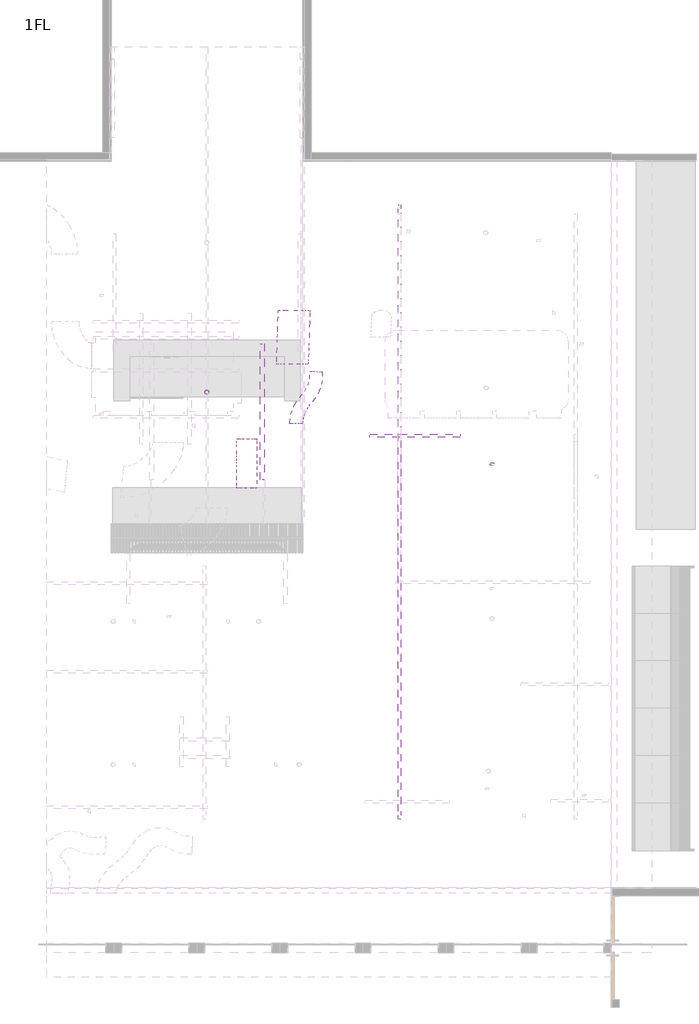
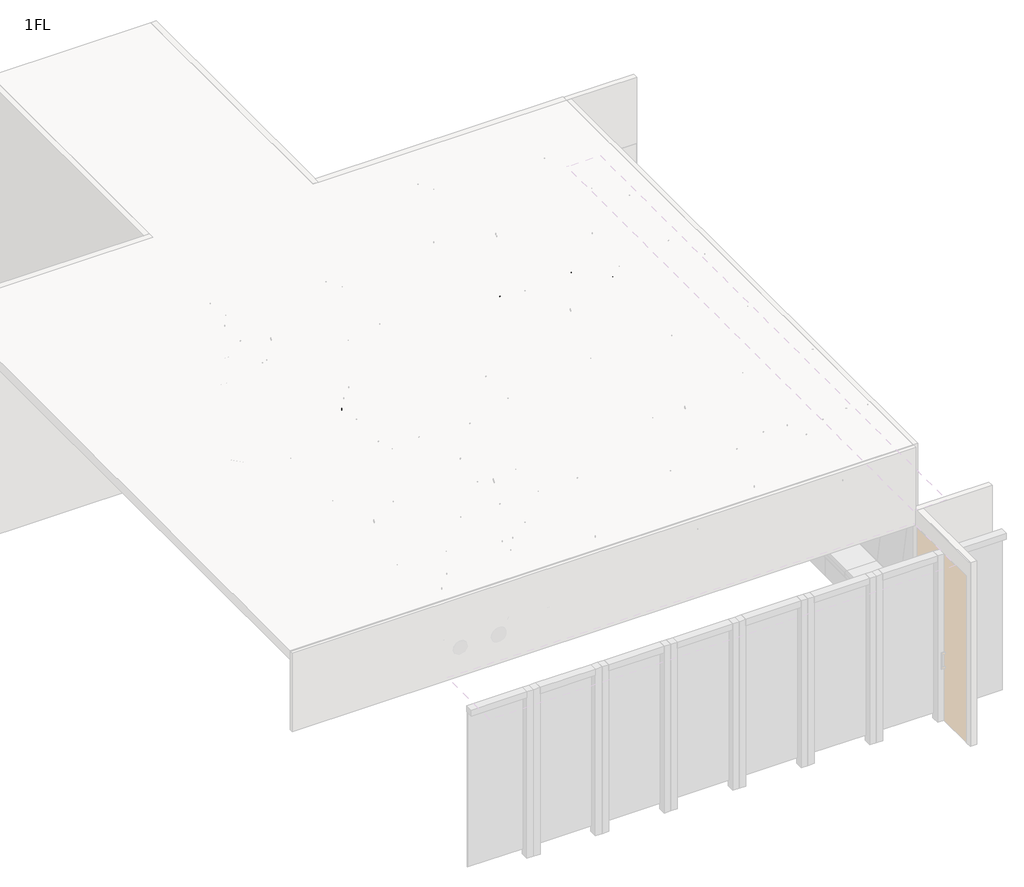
# One storey, part 12 of 13: 3 duct segments, 2 light fixtures, 2 proxies, 1 fire suppression terminal.
"""IFC4 building model written with IfcOpenShell, lengths in millimetres."""

from ifc_helpers import new_model, si_unit, frame, origin, place, context, project, spatial, circle_curve, ellipse_curve, transform, mapped, element, save
from ifc_brep_helpers import plane_surface, cylinder_surface, advanced_brep
from components import mechanical_equipment_5372400f, duct_hanger_0f291719, sprinkler_01_sprinkler_01_96afb536, pendant_light_02_pendant_light_02_69d9757e, spot_light_spot_light_859ee439

model = new_model("IFC4")

# Units and contexts
model_context = context("Model", 3, world=origin())
ifc_project = project(units=[si_unit("LENGTHUNIT", "METRE", prefix="MILLI")], contexts=[model_context])

# Site, building, storey
site = spatial("IfcSite", under=ifc_project)
building = spatial("IfcBuilding", under=site)
storey = spatial("IfcBuildingStorey", under=building, Name="1FL", Elevation=500.0)

# Proxies
placement = place(None, origin())
mechanical_equipment_shape = mechanical_equipment_5372400f(model_context)
element("IfcBuildingElementProxy", 1, Name="Beared-Hanger : BearedHanger", ObjectType="Beared-Hanger : BearedHanger", at=placement, inside=storey, context=model_context, shape_type="MappedRepresentation", body=[
    mapped(mechanical_equipment_shape, transform((18644.7972604, 1592.411155, 4470.0), x_axis=(1.0, 0.0, 0.0), y_axis=(0.0, 1.0, 0.0), z_axis=(0.0, 0.0, 1.0))),
])
duct_hanger_shape = duct_hanger_0f291719(model_context)
element("IfcBuildingElementProxy", 2, Name="Duct-hanger : Φ44", ObjectType="Duct-hanger : Φ44", at=placement, inside=storey, context=model_context, shape_type="MappedRepresentation", body=[
    mapped(duct_hanger_shape, transform((19618.6610033, 1236.8355935, 4470.0), x_axis=(0.0, 1.0, 0.0), y_axis=(-1.0, 0.0, 0.0), z_axis=(0.0, 0.0, 1.0))),
])

# Duct segments
element("IfcDuctSegment", 3, ObjectType="フレキシブル - 円形", at=placement, inside=storey, context=model_context, shape_type="AdvancedBrep", body=[
    advanced_brep(
    [(16898.521565, 2493.89169, 3920.0), (17098.521565, 2493.89169, 3720.0), (17298.521565, 2493.89169, 3920.0), (17098.521565, 2493.89169, 4120.0), (16898.521565, 2525.0228497, 3920.0), (17098.521565, 2504.6395437, 3720.0), (17298.521565, 2521.8183379, 3920.0), (17098.521565, 2542.2016439, 4120.0), (16915.5675628, 3175.9810163, 3720.1931273), (17115.5675628, 3175.9810163, 3920.1931273), (17315.5675628, 3175.9810163, 3720.1931273), (17115.5675628, 3175.9810163, 3520.1931273), (16900.3421128, 2637.6376364, 3898.6602124), (17099.7344759, 2579.6673498, 3705.7827068), (17300.2465847, 2628.523979, 3899.779958), (17100.8542215, 2686.4942656, 4092.6574637), (16904.6270631, 2774.5079138, 3848.4336123), (17103.2873877, 2693.1547837, 3664.1367916), (17304.4164493, 2761.7181797, 3850.9023494), (17105.7561247, 2843.0713098, 4035.19917), (16909.6726785, 2908.1545266, 3789.290778), (17108.333003, 2826.8013965, 3604.9939573), (17309.4620646, 2895.3647924, 3791.759515), (17110.8017401, 2976.7179225, 3976.0563357), (16913.8425431, 3041.3487272, 3740.4131693), (17113.2349062, 2983.3784406, 3547.5356636), (17313.7470149, 3032.2350698, 3741.5329149), (17114.3546518, 3090.2053564, 3934.4104205), (16915.5675628, 3148.0543683, 3720.1931273), (17115.5675628, 3127.6710623, 3520.1931273), (17315.5675628, 3144.8498566, 3720.1931273), (17115.5675628, 3165.2331626, 3920.1931273)],
    [
        (0, 1, circle_curve(frame((17098.521565, 2493.89169, 3920.0), z_axis=(0.0, -1.0, 0.0), x_axis=(-1.0, 0.0, 0.0)), 200.0)),
        (1, 2, circle_curve(frame((17098.521565, 2493.89169, 3920.0), z_axis=(0.0, -1.0, 0.0), x_axis=(-1.0, 0.0, 0.0)), 200.0)),
        (2, 3, circle_curve(frame((17098.521565, 2493.89169, 3920.0), z_axis=(0.0, -1.0, 0.0), x_axis=(-1.0, 0.0, 0.0)), 200.0)),
        (3, 0, circle_curve(frame((17098.521565, 2493.89169, 3920.0), z_axis=(0.0, -1.0, 0.0), x_axis=(-1.0, 0.0, 0.0)), 200.0)),
        (0, 4),
        (4, 5, ellipse_curve(frame((17098.521565, 2523.4205938, 3920.0), z_axis=(-0.0079759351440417, -0.9955881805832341, 0.09349095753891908), x_axis=(0.08462857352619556, -0.0938305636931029, -0.9919847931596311)), 200.886274, 200.0)),
        (5, 1),
        (5, 6, ellipse_curve(frame((17098.521565, 2523.4205938, 3920.0), z_axis=(-0.0079759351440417, -0.9955881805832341, 0.09349095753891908), x_axis=(0.08462857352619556, -0.0938305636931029, -0.9919847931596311)), 200.886274, 200.0)),
        (6, 2),
        (6, 7, ellipse_curve(frame((17098.521565, 2523.4205938, 3920.0), z_axis=(-0.0079759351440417, -0.9955881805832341, 0.09349095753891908), x_axis=(0.08462857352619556, -0.0938305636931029, -0.9919847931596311)), 200.886274, 200.0)),
        (7, 3),
        (7, 4, ellipse_curve(frame((17098.521565, 2523.4205938, 3920.0), z_axis=(-0.0079759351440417, -0.9955881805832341, 0.09349095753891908), x_axis=(0.08462857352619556, -0.0938305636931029, -0.9919847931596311)), 200.886274, 200.0)),
        (8, 9, circle_curve(frame((17115.5675628, 3175.9810163, 3720.1931273), z_axis=(0.0, 1.0, 0.0), x_axis=(-1.0, 0.0, 0.0)), 200.0)),
        (9, 10, circle_curve(frame((17115.5675628, 3175.9810163, 3720.1931273), z_axis=(0.0, 1.0, 0.0), x_axis=(-1.0, 0.0, 0.0)), 200.0)),
        (10, 11, circle_curve(frame((17115.5675628, 3175.9810163, 3720.1931273), z_axis=(0.0, 1.0, 0.0), x_axis=(-1.0, 0.0, 0.0)), 200.0)),
        (11, 8, circle_curve(frame((17115.5675628, 3175.9810163, 3720.1931273), z_axis=(0.0, 1.0, 0.0), x_axis=(-1.0, 0.0, 0.0)), 200.0)),
        (4, 12),
        (12, 13, ellipse_curve(frame((17100.2943487, 2633.0808077, 3899.2200852), z_axis=(-0.02270670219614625, -0.9636615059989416, 0.2661595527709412), x_axis=(0.08191469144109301, -0.2671263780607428, -0.9601736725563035)), 200.6820997, 200.0)),
        (13, 5),
        (13, 14, ellipse_curve(frame((17100.2943487, 2633.0808077, 3899.2200852), z_axis=(-0.02270670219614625, -0.9636615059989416, 0.2661595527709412), x_axis=(0.08191469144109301, -0.2671263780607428, -0.9601736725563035)), 200.6820997, 200.0)),
        (14, 6),
        (14, 15, ellipse_curve(frame((17100.2943487, 2633.0808077, 3899.2200852), z_axis=(-0.02270670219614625, -0.9636615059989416, 0.2661595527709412), x_axis=(0.08191469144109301, -0.2671263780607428, -0.9601736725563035)), 200.6820997, 200.0)),
        (15, 7),
        (15, 12, ellipse_curve(frame((17100.2943487, 2633.0808077, 3899.2200852), z_axis=(-0.02270670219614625, -0.9636615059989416, 0.2661595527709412), x_axis=(0.08191469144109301, -0.2671263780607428, -0.9601736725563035)), 200.6820997, 200.0)),
        (12, 16),
        (16, 17, ellipse_curve(frame((17104.5217562, 2768.1130467, 3849.6679808), z_axis=(-0.031957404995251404, -0.9266385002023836, 0.37459286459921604), x_axis=(0.07876760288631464, -0.3759535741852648, -0.9232846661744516)), 200.1059553, 200.0)),
        (17, 13),
        (17, 18, ellipse_curve(frame((17104.5217562, 2768.1130467, 3849.6679808), z_axis=(-0.031957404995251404, -0.9266385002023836, 0.37459286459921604), x_axis=(0.07876760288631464, -0.3759535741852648, -0.9232846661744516)), 200.1059553, 200.0)),
        (18, 14),
        (18, 19, ellipse_curve(frame((17104.5217562, 2768.1130467, 3849.6679808), z_axis=(-0.031957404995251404, -0.9266385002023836, 0.37459286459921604), x_axis=(0.07876760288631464, -0.3759535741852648, -0.9232846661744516)), 200.1059553, 200.0)),
        (19, 15),
        (19, 16, ellipse_curve(frame((17104.5217562, 2768.1130467, 3849.6679808), z_axis=(-0.031957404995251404, -0.9266385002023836, 0.37459286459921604), x_axis=(0.07876760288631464, -0.3759535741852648, -0.9232846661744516)), 200.1059553, 200.0)),
        (16, 20),
        (20, 21, ellipse_curve(frame((17109.5673715, 2901.7596595, 3790.5251465), z_axis=(-0.03195740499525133, -0.9266385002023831, 0.37459286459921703), x_axis=(-0.07876760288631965, 0.3759535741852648, 0.923284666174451)), 200.1059553, 200.0)),
        (21, 17),
        (21, 22, ellipse_curve(frame((17109.5673715, 2901.7596595, 3790.5251465), z_axis=(-0.03195740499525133, -0.9266385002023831, 0.37459286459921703), x_axis=(-0.07876760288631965, 0.3759535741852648, 0.923284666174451)), 200.1059553, 200.0)),
        (22, 18),
        (22, 23, ellipse_curve(frame((17109.5673715, 2901.7596595, 3790.5251465), z_axis=(-0.03195740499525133, -0.9266385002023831, 0.37459286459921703), x_axis=(-0.07876760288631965, 0.3759535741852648, 0.923284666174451)), 200.1059553, 200.0)),
        (23, 19),
        (23, 20, ellipse_curve(frame((17109.5673715, 2901.7596595, 3790.5251465), z_axis=(-0.03195740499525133, -0.9266385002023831, 0.37459286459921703), x_axis=(-0.07876760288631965, 0.3759535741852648, 0.923284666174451)), 200.1059553, 200.0)),
        (20, 24),
        (24, 25, ellipse_curve(frame((17113.794779, 3036.7918985, 3740.9730421), z_axis=(-0.022706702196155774, -0.9636615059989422, 0.26615955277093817), x_axis=(-0.08191469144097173, 0.26712637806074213, 0.960173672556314)), 200.6820997, 200.0)),
        (25, 21),
        (25, 26, ellipse_curve(frame((17113.794779, 3036.7918985, 3740.9730421), z_axis=(-0.022706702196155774, -0.9636615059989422, 0.26615955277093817), x_axis=(-0.08191469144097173, 0.26712637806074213, 0.960173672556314)), 200.6820997, 200.0)),
        (26, 22),
        (26, 27, ellipse_curve(frame((17113.794779, 3036.7918985, 3740.9730421), z_axis=(-0.022706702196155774, -0.9636615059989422, 0.26615955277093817), x_axis=(-0.08191469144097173, 0.26712637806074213, 0.960173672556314)), 200.6820997, 200.0)),
        (27, 23),
        (27, 24, ellipse_curve(frame((17113.794779, 3036.7918985, 3740.9730421), z_axis=(-0.022706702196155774, -0.9636615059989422, 0.26615955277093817), x_axis=(-0.08191469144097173, 0.26712637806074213, 0.960173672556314)), 200.6820997, 200.0)),
        (24, 28),
        (28, 29, ellipse_curve(frame((17115.5675628, 3146.4521124, 3720.1931273), z_axis=(-0.007975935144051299, -0.9955881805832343, 0.09349095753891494), x_axis=(-0.08462857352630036, 0.09383056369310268, 0.9919847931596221)), 200.886274, 200.0)),
        (29, 25),
        (29, 30, ellipse_curve(frame((17115.5675628, 3146.4521124, 3720.1931273), z_axis=(-0.007975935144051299, -0.9955881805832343, 0.09349095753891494), x_axis=(-0.08462857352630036, 0.09383056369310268, 0.9919847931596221)), 200.886274, 200.0)),
        (30, 26),
        (30, 31, ellipse_curve(frame((17115.5675628, 3146.4521124, 3720.1931273), z_axis=(-0.007975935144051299, -0.9955881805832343, 0.09349095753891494), x_axis=(-0.08462857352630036, 0.09383056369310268, 0.9919847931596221)), 200.886274, 200.0)),
        (31, 27),
        (31, 28, ellipse_curve(frame((17115.5675628, 3146.4521124, 3720.1931273), z_axis=(-0.007975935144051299, -0.9955881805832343, 0.09349095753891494), x_axis=(-0.08462857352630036, 0.09383056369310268, 0.9919847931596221)), 200.886274, 200.0)),
        (28, 8),
        (11, 29),
        (10, 30),
        (9, 31),
    ],
    [
        plane_surface(frame((16898.521565, 2493.89169, 3920.0), z_axis=(0.0, -1.0, 0.0), x_axis=(0.0, 0.0, 1.0))),
        cylinder_surface(frame((17098.521565, 2493.89169, 3920.0), z_axis=(0.0, -1.0, 0.0), x_axis=(-1.0, 0.0, 0.0)), 200.0),
        plane_surface(frame((16915.5675628, 3175.9810163, 3720.1931273), z_axis=(0.0, 1.0, 0.0), x_axis=(0.0, 0.0, 1.0))),
        cylinder_surface(frame((17098.521565, 2523.4205938, 3920.0), z_axis=(-0.0158814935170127, -0.9823916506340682, 0.18615698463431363), x_axis=(-0.9998727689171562, 0.0158814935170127, -0.0014913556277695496)), 200.0),
        cylinder_surface(frame((17100.2943487, 2633.0808077, 3899.2200852), z_axis=(-0.029377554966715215, -0.938380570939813, 0.34435281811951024), x_axis=(-0.9995547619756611, 0.02937755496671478, -0.00521891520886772)), 200.0),
        cylinder_surface(frame((17104.5217562, 2768.1130467, 3849.6679808), z_axis=(-0.034503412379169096, -0.913915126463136, 0.40443622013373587), x_axis=(-0.9993779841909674, 0.03450341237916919, -0.007291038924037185)), 200.0),
        cylinder_surface(frame((17109.5673715, 2901.7596595, 3790.5251465), z_axis=(-0.029377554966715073, -0.9383805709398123, 0.3443528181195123), x_axis=(-0.9995547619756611, 0.02937755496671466, -0.005218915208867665)), 200.0),
        cylinder_surface(frame((17113.794779, 3036.7918985, 3740.9730421), z_axis=(-0.015881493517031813, -0.9823916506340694, 0.1861569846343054), x_axis=(-0.9998727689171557, 0.015881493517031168, -0.0014913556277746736)), 200.0),
        cylinder_surface(frame((17115.5675628, 3146.4521124, 3720.1931273), z_axis=(0.0, -1.0, 0.0), x_axis=(-1.0, 0.0, 0.0)), 200.0),
    ],
    [
        (0, [[1, 2, 3, 4]]),
        (1, [[-1, 5, 6, 7]]),
        (1, [[-2, -7, 8, 9]]),
        (1, [[-3, -9, 10, 11]]),
        (1, [[-4, -11, 12, -5]]),
        (2, [[13, 14, 15, 16]]),
        (3, [[-6, 17, 18, 19]]),
        (3, [[-8, -19, 20, 21]]),
        (3, [[-10, -21, 22, 23]]),
        (3, [[-12, -23, 24, -17]]),
        (4, [[-18, 25, 26, 27]]),
        (4, [[-20, -27, 28, 29]]),
        (4, [[-22, -29, 30, 31]]),
        (4, [[-24, -31, 32, -25]]),
        (5, [[-26, 33, 34, 35]]),
        (5, [[-28, -35, 36, 37]]),
        (5, [[-30, -37, 38, 39]]),
        (5, [[-32, -39, 40, -33]]),
        (6, [[-34, 41, 42, 43]]),
        (6, [[-36, -43, 44, 45]]),
        (6, [[-38, -45, 46, 47]]),
        (6, [[-40, -47, 48, -41]]),
        (7, [[-42, 49, 50, 51]]),
        (7, [[-44, -51, 52, 53]]),
        (7, [[-46, -53, 54, 55]]),
        (7, [[-48, -55, 56, -49]]),
        (8, [[-50, 57, -16, 58]]),
        (8, [[-52, -58, -15, 59]]),
        (8, [[-54, -59, -14, 60]]),
        (8, [[-56, -60, -13, -57]]),
    ],
),
])
element("IfcDuctSegment", 4, ObjectType="フレキシブル - 円形", at=placement, inside=storey, context=model_context, shape_type="AdvancedBrep", body=[
    advanced_brep(
    [(16395.8282459, 931.4107828, 3695.0), (16520.8282459, 931.6893415, 3570.0003104), (16645.8282459, 931.4107828, 3695.0), (16520.8282459, 931.132224, 3819.9996896), (16395.8282459, 936.3442948, 3695.0109942), (16520.8282459, 939.1990768, 3570.0170456), (16645.8282459, 936.3693612, 3695.0110501), (16520.8282459, 933.5145792, 3820.0049986), (16395.8224693, 1551.4774265, 3918.5802132), (16520.8602595, 1551.4774265, 4043.5424115), (16645.8224578, 1551.4774265, 3918.5046212), (16520.7846676, 1551.4774265, 3793.5424229), (16395.8094069, 1030.2409323, 3699.0737925), (16520.8062812, 1048.6749292, 3574.7539385), (16645.8093983, 1030.3090976, 3699.0757132), (16520.812524, 1011.8751007, 3823.3955673), (16395.776762, 1123.7123648, 3723.0038786), (16520.7615092, 1176.8692541, 3607.5736049), (16645.7767526, 1123.7824387, 3723.006288), (16520.7920054, 1070.6255494, 3838.4365617), (16395.7603769, 1202.3476959, 3778.1956695), (16520.7398661, 1280.739023, 3680.4766942), (16645.7603743, 1202.3854882, 3778.1754214), (16520.7808851, 1123.9941611, 3875.8943967), (16395.7639694, 1275.3565013, 3844.867584), (16520.7433076, 1350.6788671, 3744.3460216), (16645.7639651, 1275.3583563, 3844.8145177), (16520.7846268, 1200.0359906, 3945.3360801), (16395.7836164, 1357.1414361, 3894.5955036), (16520.7561132, 1403.9849781, 3776.7578835), (16645.7836033, 1357.1071359, 3894.5204538), (16520.8111065, 1310.2635939, 4012.3580739), (16395.8094565, 1452.5122118, 3915.013705), (16520.7734712, 1468.0500351, 3790.4737542), (16645.8094415, 1452.4708736, 3914.9371484), (16520.8454268, 1436.9330504, 4039.4770992), (16395.8224693, 1546.9838228, 3918.5802132), (16520.7846676, 1549.334603, 3793.5424229), (16645.8224578, 1546.9680375, 3918.5046212), (16520.8602595, 1544.6172573, 4043.5424115)],
    [
        (0, 1, circle_curve(frame((16520.8282459, 931.4107828, 3695.0), z_axis=(0.0, -0.9999975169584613, -0.0022284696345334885), x_axis=(-1.0, 0.0, 0.0)), 125.0)),
        (1, 2, circle_curve(frame((16520.8282459, 931.4107828, 3695.0), z_axis=(0.0, -0.9999975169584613, -0.0022284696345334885), x_axis=(-1.0, 0.0, 0.0)), 125.0)),
        (2, 3, circle_curve(frame((16520.8282459, 931.4107828, 3695.0), z_axis=(0.0, -0.9999975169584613, -0.0022284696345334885), x_axis=(-1.0, 0.0, 0.0)), 125.0)),
        (3, 0, circle_curve(frame((16520.8282459, 931.4107828, 3695.0), z_axis=(0.0, -0.9999975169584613, -0.0022284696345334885), x_axis=(-1.0, 0.0, 0.0)), 125.0)),
        (0, 4),
        (4, 5, ellipse_curve(frame((16520.8282459, 936.356828, 3695.0110221), z_axis=(0.00010024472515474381, -0.9997415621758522, -0.02273320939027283), x_axis=(-0.004887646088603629, -0.02273342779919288, 0.9997296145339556)), 125.026288, 125.0)),
        (5, 1),
        (5, 6, ellipse_curve(frame((16520.8282459, 936.356828, 3695.0110221), z_axis=(0.00010024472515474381, -0.9997415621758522, -0.02273320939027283), x_axis=(-0.004887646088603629, -0.02273342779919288, 0.9997296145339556)), 125.026288, 125.0)),
        (6, 2),
        (6, 7, ellipse_curve(frame((16520.8282459, 936.356828, 3695.0110221), z_axis=(0.00010024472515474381, -0.9997415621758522, -0.02273320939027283), x_axis=(-0.004887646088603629, -0.02273342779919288, 0.9997296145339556)), 125.026288, 125.0)),
        (7, 3),
        (7, 4, ellipse_curve(frame((16520.8282459, 936.356828, 3695.0110221), z_axis=(0.00010024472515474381, -0.9997415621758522, -0.02273320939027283), x_axis=(-0.004887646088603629, -0.02273342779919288, 0.9997296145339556)), 125.026288, 125.0)),
        (8, 9, circle_curve(frame((16520.8224636, 1551.4774265, 3918.5424172), z_axis=(0.0, 1.0, 0.0), x_axis=(-0.9999999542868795, 0.0, 0.0003023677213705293)), 125.0)),
        (9, 10, circle_curve(frame((16520.8224636, 1551.4774265, 3918.5424172), z_axis=(0.0, 1.0, 0.0), x_axis=(-0.9999999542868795, 0.0, 0.0003023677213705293)), 125.0)),
        (10, 11, circle_curve(frame((16520.8224636, 1551.4774265, 3918.5424172), z_axis=(0.0, 1.0, 0.0), x_axis=(-0.9999999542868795, 0.0, 0.0003023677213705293)), 125.0)),
        (11, 8, circle_curve(frame((16520.8224636, 1551.4774265, 3918.5424172), z_axis=(0.0, 1.0, 0.0), x_axis=(-0.9999999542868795, 0.0, 0.0003023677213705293)), 125.0)),
        (4, 12),
        (12, 13, ellipse_curve(frame((16520.8094026, 1030.275015, 3699.0747529), z_axis=(0.0002708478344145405, -0.989224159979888, -0.1464086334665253), x_axis=(-0.000666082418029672, -0.1464087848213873, 0.9892239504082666)), 125.6750645, 125.0)),
        (13, 5),
        (13, 14, ellipse_curve(frame((16520.8094026, 1030.275015, 3699.0747529), z_axis=(0.0002708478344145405, -0.989224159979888, -0.1464086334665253), x_axis=(-0.000666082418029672, -0.1464087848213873, 0.9892239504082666)), 125.6750645, 125.0)),
        (14, 6),
        (14, 15, ellipse_curve(frame((16520.8094026, 1030.275015, 3699.0747529), z_axis=(0.0002708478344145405, -0.989224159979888, -0.1464086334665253), x_axis=(-0.000666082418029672, -0.1464087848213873, 0.9892239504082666)), 125.6750645, 125.0)),
        (15, 7),
        (15, 12, ellipse_curve(frame((16520.8094026, 1030.275015, 3699.0747529), z_axis=(0.0002708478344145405, -0.989224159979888, -0.1464086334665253), x_axis=(-0.000666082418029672, -0.1464087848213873, 0.9892239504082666)), 125.6750645, 125.0)),
        (12, 16),
        (16, 17, ellipse_curve(frame((16520.7767573, 1123.7474018, 3723.0050833), z_axis=(0.000258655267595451, -0.9084205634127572, -0.4180574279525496), x_axis=(0.0004668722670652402, -0.4180572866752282, 0.9084205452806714)), 127.068319, 125.0)),
        (17, 13),
        (17, 18, ellipse_curve(frame((16520.7767573, 1123.7474018, 3723.0050833), z_axis=(0.000258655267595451, -0.9084205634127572, -0.4180574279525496), x_axis=(0.0004668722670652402, -0.4180572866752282, 0.9084205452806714)), 127.068319, 125.0)),
        (18, 14),
        (18, 19, ellipse_curve(frame((16520.7767573, 1123.7474018, 3723.0050833), z_axis=(0.000258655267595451, -0.9084205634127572, -0.4180574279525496), x_axis=(0.0004668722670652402, -0.4180572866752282, 0.9084205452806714)), 127.068319, 125.0)),
        (19, 15),
        (19, 16, ellipse_curve(frame((16520.7767573, 1123.7474018, 3723.0050833), z_axis=(0.000258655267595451, -0.9084205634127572, -0.4180574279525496), x_axis=(0.0004668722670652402, -0.4180572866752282, 0.9084205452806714)), 127.068319, 125.0)),
        (16, 20),
        (20, 21, ellipse_curve(frame((16520.7603756, 1202.366592, 3778.1855454), z_axis=(6.724588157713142e-05, -0.7800684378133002, -0.6256941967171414), x_axis=(0.0016163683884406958, -0.6256932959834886, 0.7800674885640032)), 125.2567687, 125.0)),
        (21, 17),
        (21, 22, ellipse_curve(frame((16520.7603756, 1202.366592, 3778.1855454), z_axis=(6.724588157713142e-05, -0.7800684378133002, -0.6256941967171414), x_axis=(0.0016163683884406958, -0.6256932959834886, 0.7800674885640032)), 125.2567687, 125.0)),
        (22, 18),
        (22, 23, ellipse_curve(frame((16520.7603756, 1202.366592, 3778.1855454), z_axis=(6.724588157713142e-05, -0.7800684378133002, -0.6256941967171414), x_axis=(0.0016163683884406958, -0.6256932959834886, 0.7800674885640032)), 125.2567687, 125.0)),
        (23, 19),
        (23, 20, ellipse_curve(frame((16520.7603756, 1202.366592, 3778.1855454), z_axis=(6.724588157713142e-05, -0.7800684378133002, -0.6256941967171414), x_axis=(0.0016163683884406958, -0.6256932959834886, 0.7800674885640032)), 125.2567687, 125.0)),
        (20, 24),
        (24, 25, ellipse_curve(frame((16520.7639672, 1275.3574288, 3844.8410509), z_axis=(-0.00012136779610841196, -0.8001904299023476, -0.5997459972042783), x_axis=(0.0008732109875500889, 0.5997456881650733, -0.8001901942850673)), 125.588895, 125.0)),
        (25, 21),
        (25, 26, ellipse_curve(frame((16520.7639672, 1275.3574288, 3844.8410509), z_axis=(-0.00012136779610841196, -0.8001904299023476, -0.5997459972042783), x_axis=(0.0008732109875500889, 0.5997456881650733, -0.8001901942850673)), 125.588895, 125.0)),
        (26, 22),
        (26, 27, ellipse_curve(frame((16520.7639672, 1275.3574288, 3844.8410509), z_axis=(-0.00012136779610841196, -0.8001904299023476, -0.5997459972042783), x_axis=(0.0008732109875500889, 0.5997456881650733, -0.8001901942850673)), 125.588895, 125.0)),
        (27, 23),
        (27, 24, ellipse_curve(frame((16520.7639672, 1275.3574288, 3844.8410509), z_axis=(-0.00012136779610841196, -0.8001904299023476, -0.5997459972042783), x_axis=(0.0008732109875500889, 0.5997456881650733, -0.8001901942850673)), 125.588895, 125.0)),
        (24, 28),
        (28, 29, ellipse_curve(frame((16520.7836098, 1357.124286, 3894.5579787), z_axis=(-0.00023844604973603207, -0.9291804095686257, -0.3696264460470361), x_axis=(0.00017877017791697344, 0.3696264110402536, -0.9291804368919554)), 126.7784987, 125.0)),
        (29, 25),
        (29, 30, ellipse_curve(frame((16520.7836098, 1357.124286, 3894.5579787), z_axis=(-0.00023844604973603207, -0.9291804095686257, -0.3696264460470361), x_axis=(0.00017877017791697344, 0.3696264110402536, -0.9291804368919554)), 126.7784987, 125.0)),
        (30, 26),
        (30, 31, ellipse_curve(frame((16520.7836098, 1357.124286, 3894.5579787), z_axis=(-0.00023844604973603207, -0.9291804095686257, -0.3696264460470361), x_axis=(0.00017877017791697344, 0.3696264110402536, -0.9291804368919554)), 126.7784987, 125.0)),
        (31, 27),
        (31, 28, ellipse_curve(frame((16520.7836098, 1357.124286, 3894.5579787), z_axis=(-0.00023844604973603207, -0.9291804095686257, -0.3696264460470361), x_axis=(0.00017877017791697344, 0.3696264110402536, -0.9291804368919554)), 126.7784987, 125.0)),
        (28, 32),
        (32, 33, ellipse_curve(frame((16520.809449, 1452.4915427, 3914.9754267), z_axis=(-0.00020204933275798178, -0.9922819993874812, -0.12400158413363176), x_axis=(-0.0007359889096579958, 0.12400170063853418, -0.9922817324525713)), 125.470054, 125.0)),
        (33, 29),
        (33, 34, ellipse_curve(frame((16520.809449, 1452.4915427, 3914.9754267), z_axis=(-0.00020204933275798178, -0.9922819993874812, -0.12400158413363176), x_axis=(-0.0007359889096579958, 0.12400170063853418, -0.9922817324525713)), 125.470054, 125.0)),
        (34, 30),
        (34, 35, ellipse_curve(frame((16520.809449, 1452.4915427, 3914.9754267), z_axis=(-0.00020204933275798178, -0.9922819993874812, -0.12400158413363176), x_axis=(-0.0007359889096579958, 0.12400170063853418, -0.9922817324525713)), 125.470054, 125.0)),
        (35, 31),
        (35, 32, ellipse_curve(frame((16520.809449, 1452.4915427, 3914.9754267), z_axis=(-0.00020204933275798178, -0.9922819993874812, -0.12400158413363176), x_axis=(-0.0007359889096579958, 0.12400170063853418, -0.9922817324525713)), 125.470054, 125.0)),
        (32, 36),
        (36, 37, ellipse_curve(frame((16520.8224636, 1546.9759302, 3918.5424172), z_axis=(-6.883457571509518e-05, -0.9998220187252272, -0.018866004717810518), x_axis=(-0.0036479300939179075, 0.018866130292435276, -0.9998153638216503)), 125.0222516, 125.0)),
        (37, 33),
        (37, 38, ellipse_curve(frame((16520.8224636, 1546.9759302, 3918.5424172), z_axis=(-6.883457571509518e-05, -0.9998220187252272, -0.018866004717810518), x_axis=(-0.0036479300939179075, 0.018866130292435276, -0.9998153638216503)), 125.0222516, 125.0)),
        (38, 34),
        (38, 39, ellipse_curve(frame((16520.8224636, 1546.9759302, 3918.5424172), z_axis=(-6.883457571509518e-05, -0.9998220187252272, -0.018866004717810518), x_axis=(-0.0036479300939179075, 0.018866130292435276, -0.9998153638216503)), 125.0222516, 125.0)),
        (39, 35),
        (39, 36, ellipse_curve(frame((16520.8224636, 1546.9759302, 3918.5424172), z_axis=(-6.883457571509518e-05, -0.9998220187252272, -0.018866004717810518), x_axis=(-0.0036479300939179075, 0.018866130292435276, -0.9998153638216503)), 125.0222516, 125.0)),
        (36, 8),
        (11, 37),
        (10, 38),
        (9, 39),
    ],
    [
        plane_surface(frame((16520.8282459, 931.132224, 3819.9996896), z_axis=(0.0, -0.9999975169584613, -0.002228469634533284), x_axis=(1.0, 0.0, 0.0))),
        cylinder_surface(frame((16520.8282459, 931.4107828, 3695.0), z_axis=(0.0, -0.9999975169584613, -0.0022284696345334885), x_axis=(-1.0, 0.0, 0.0)), 125.0),
        plane_surface(frame((16395.8224636, 1551.4774265, 3918.5424172), z_axis=(0.0, 1.0, 0.0), x_axis=(0.0, 0.0, 1.0))),
        cylinder_surface(frame((16520.8282459, 936.356828, 3695.0110221), z_axis=(0.00020044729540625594, -0.9990651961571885, -0.04322838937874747), x_axis=(-0.9999999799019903, -0.00020043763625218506, -4.5577686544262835e-06)), 125.0),
        cylinder_surface(frame((16520.8094026, 1030.275015, 3699.0747529), z_axis=(0.00033833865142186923, -0.9687558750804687, -0.24801600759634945), x_axis=(-0.9999999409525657, -0.00034269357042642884, -2.5612144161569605e-05)), 125.0),
        cylinder_surface(frame((16520.7767573, 1123.7474018, 3723.0050833), z_axis=(0.00017055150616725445, -0.8185121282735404, -0.5744892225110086), x_axis=(-0.9999999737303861, -0.00022757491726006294, 2.7365749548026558e-05)), 125.0),
        cylinder_surface(frame((16520.7603756, 1202.366592, 3778.1855454), z_axis=(-3.633544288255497e-05, -0.7384265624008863, -0.6743339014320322), x_axis=(-0.9999999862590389, -8.223952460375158e-05, 0.00014393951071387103)), 125.0),
        cylinder_surface(frame((16520.7639672, 1275.3574288, 3844.8410509), z_axis=(-0.00020526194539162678, -0.8544500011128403, -0.5195335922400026), x_axis=(-0.999999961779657, 7.915557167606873e-05, 0.00026490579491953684)), 125.0),
        cylinder_surface(frame((16520.7836098, 1357.124286, 3894.5579787), z_axis=(-0.0002649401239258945, -0.9778410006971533, -0.20934876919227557), x_axis=(-0.9999999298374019, 0.0002036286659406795, 0.0003144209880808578)), 125.0),
        cylinder_surface(frame((16520.809449, 1452.4915427, 3914.9754267), z_axis=(-0.00013764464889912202, -0.9992881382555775, -0.03772529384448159), x_axis=(-0.999999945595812, 0.00012623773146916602, 0.0003047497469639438)), 125.0),
        cylinder_surface(frame((16520.8224636, 1546.9759302, 3918.5424172), z_axis=(0.0, -1.0, 0.0), x_axis=(-0.9999999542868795, 0.0, 0.0003023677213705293)), 125.0),
    ],
    [
        (0, [[1, 2, 3, 4]]),
        (1, [[-1, 5, 6, 7]]),
        (1, [[-2, -7, 8, 9]]),
        (1, [[-3, -9, 10, 11]]),
        (1, [[-4, -11, 12, -5]]),
        (2, [[13, 14, 15, 16]]),
        (3, [[-6, 17, 18, 19]]),
        (3, [[-8, -19, 20, 21]]),
        (3, [[-10, -21, 22, 23]]),
        (3, [[-12, -23, 24, -17]]),
        (4, [[-18, 25, 26, 27]]),
        (4, [[-20, -27, 28, 29]]),
        (4, [[-22, -29, 30, 31]]),
        (4, [[-24, -31, 32, -25]]),
        (5, [[-26, 33, 34, 35]]),
        (5, [[-28, -35, 36, 37]]),
        (5, [[-30, -37, 38, 39]]),
        (5, [[-32, -39, 40, -33]]),
        (6, [[-34, 41, 42, 43]]),
        (6, [[-36, -43, 44, 45]]),
        (6, [[-38, -45, 46, 47]]),
        (6, [[-40, -47, 48, -41]]),
        (7, [[-42, 49, 50, 51]]),
        (7, [[-44, -51, 52, 53]]),
        (7, [[-46, -53, 54, 55]]),
        (7, [[-48, -55, 56, -49]]),
        (8, [[-50, 57, 58, 59]]),
        (8, [[-52, -59, 60, 61]]),
        (8, [[-54, -61, 62, 63]]),
        (8, [[-56, -63, 64, -57]]),
        (9, [[-58, 65, 66, 67]]),
        (9, [[-60, -67, 68, 69]]),
        (9, [[-62, -69, 70, 71]]),
        (9, [[-64, -71, 72, -65]]),
        (10, [[-66, 73, -16, 74]]),
        (10, [[-68, -74, -15, 75]]),
        (10, [[-70, -75, -14, 76]]),
        (10, [[-72, -76, -13, -73]]),
    ],
),
])
element("IfcDuctSegment", 5, ObjectType="フレキシブル - 円形", at=placement, inside=storey, context=model_context, shape_type="AdvancedBrep", body=[
    advanced_brep(
    [(17064.4921046, 1741.6017685, 3645.0), (17144.4921046, 1741.6017685, 3565.0), (17224.4921046, 1741.6017685, 3645.0), (17144.4921046, 1741.6017685, 3725.0), (17064.4921046, 1754.4830374, 3645.0), (17144.4921046, 1750.2392296, 3565.0), (17224.4921046, 1745.3954065, 3645.0), (17144.4921046, 1749.6392143, 3725.0), (17316.3907227, 2405.923726, 3645.7058666), (17397.069094, 2403.8835025, 3724.9954491), (17476.3065084, 2400.928879, 3644.2941334), (17395.628137, 2402.9691025, 3565.0045509), (17077.0185358, 1864.3981099, 3645.8270637), (17155.3874378, 1845.8419852, 3565.7193697), (17233.6614441, 1825.8531683, 3645.6054101), (17155.2925421, 1844.409293, 3725.7131042), (17121.3161955, 1978.9122364, 3647.0614889), (17192.625742, 1942.1069324, 3566.7570747), (17263.8845391, 1903.9830591, 3646.447625), (17192.5749926, 1940.7883631, 3726.7520393), (17186.9928857, 2075.1733432, 3647.6131078), (17251.6248648, 2028.5808526, 3567.2526086), (17316.6336711, 1981.2964837, 3646.8906653), (17252.0016919, 2027.8889743, 3727.2511645), (17249.879594, 2157.0839682, 3647.5621795), (17315.7888121, 2112.1550953, 3567.2006459), (17382.5915529, 2067.2073458, 3646.8372498), (17316.6823348, 2112.1362187, 3727.1987833), (17293.7592064, 2230.9934975, 3647.083964), (17367.8627089, 2199.8668364, 3566.6331263), (17443.3373124, 2169.5257175, 3646.1752211), (17369.23381, 2200.6523786, 3726.6260589), (17313.3962264, 2309.8887194, 3646.2817078), (17392.3646613, 2298.3077901, 3565.6321167), (17472.7794645, 2287.8148021, 3644.9723833), (17393.8110295, 2299.3957315, 3725.6219744)],
    [
        (0, 1, circle_curve(frame((17144.4921046, 1741.6017685, 3645.0), z_axis=(0.0, -1.0, 0.0), x_axis=(-1.0, 0.0, 0.0)), 80.0)),
        (1, 2, circle_curve(frame((17144.4921046, 1741.6017685, 3645.0), z_axis=(0.0, -1.0, 0.0), x_axis=(-1.0, 0.0, 0.0)), 80.0)),
        (2, 3, circle_curve(frame((17144.4921046, 1741.6017685, 3645.0), z_axis=(0.0, -1.0, 0.0), x_axis=(-1.0, 0.0, 0.0)), 80.0)),
        (3, 0, circle_curve(frame((17144.4921046, 1741.6017685, 3645.0), z_axis=(0.0, -1.0, 0.0), x_axis=(-1.0, 0.0, 0.0)), 80.0)),
        (0, 4),
        (4, 5, ellipse_curve(frame((17144.4921046, 1749.9392219, 3645.0), z_axis=(-0.056705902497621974, -0.9983839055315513, -0.0037440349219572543), x_axis=(0.9962148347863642, -0.05682936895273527, 0.06577557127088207)), 80.1294968, 80.0)),
        (5, 1),
        (5, 6, ellipse_curve(frame((17144.4921046, 1749.9392219, 3645.0), z_axis=(-0.056705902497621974, -0.9983839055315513, -0.0037440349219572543), x_axis=(0.9962148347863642, -0.05682936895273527, 0.06577557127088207)), 80.1294968, 80.0)),
        (6, 2),
        (6, 7, ellipse_curve(frame((17144.4921046, 1749.9392219, 3645.0), z_axis=(-0.056705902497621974, -0.9983839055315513, -0.0037440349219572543), x_axis=(0.9962148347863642, -0.05682936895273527, 0.06577557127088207)), 80.1294968, 80.0)),
        (7, 3),
        (7, 4, ellipse_curve(frame((17144.4921046, 1749.9392219, 3645.0), z_axis=(-0.056705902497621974, -0.9983839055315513, -0.0037440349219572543), x_axis=(0.9962148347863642, -0.05682936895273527, 0.06577557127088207)), 80.1294968, 80.0)),
        (8, 9, circle_curve(frame((17396.3486155, 2403.4263025, 3645.0), z_axis=(0.031165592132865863, 0.9994962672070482, -0.0059931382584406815), x_axis=(-0.9994736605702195, 0.031217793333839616, 0.00882333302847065)), 80.0)),
        (9, 10, circle_curve(frame((17396.3486155, 2403.4263025, 3645.0), z_axis=(0.031165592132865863, 0.9994962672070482, -0.0059931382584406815), x_axis=(-0.9994736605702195, 0.031217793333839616, 0.00882333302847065)), 80.0)),
        (10, 11, circle_curve(frame((17396.3486155, 2403.4263025, 3645.0), z_axis=(0.031165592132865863, 0.9994962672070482, -0.0059931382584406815), x_axis=(-0.9994736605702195, 0.031217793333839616, 0.00882333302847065)), 80.0)),
        (11, 8, circle_curve(frame((17396.3486155, 2403.4263025, 3645.0), z_axis=(0.031165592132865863, 0.9994962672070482, -0.0059931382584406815), x_axis=(-0.9994736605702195, 0.031217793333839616, 0.00882333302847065)), 80.0)),
        (4, 12),
        (12, 13, ellipse_curve(frame((17155.33999, 1845.1256391, 3645.7162369), z_axis=(-0.23894369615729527, -0.9709932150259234, -0.008836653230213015), x_axis=(0.9709601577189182, -0.23902756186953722, 0.010109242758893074)), 80.6579492, 80.0)),
        (13, 5),
        (13, 14, ellipse_curve(frame((17155.33999, 1845.1256391, 3645.7162369), z_axis=(-0.23894369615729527, -0.9709932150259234, -0.008836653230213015), x_axis=(0.9709601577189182, -0.23902756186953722, 0.010109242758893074)), 80.6579492, 80.0)),
        (14, 6),
        (14, 15, ellipse_curve(frame((17155.33999, 1845.1256391, 3645.7162369), z_axis=(-0.23894369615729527, -0.9709932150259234, -0.008836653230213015), x_axis=(0.9709601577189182, -0.23902756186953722, 0.010109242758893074)), 80.6579492, 80.0)),
        (15, 7),
        (15, 12, ellipse_curve(frame((17155.33999, 1845.1256391, 3645.7162369), z_axis=(-0.23894369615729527, -0.9709932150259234, -0.008836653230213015), x_axis=(0.9709601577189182, -0.23902756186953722, 0.010109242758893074)), 80.6579492, 80.0)),
        (12, 16),
        (16, 17, ellipse_curve(frame((17192.6003673, 1941.4476478, 3646.754557), z_axis=(-0.46523934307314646, -0.8851536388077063, -0.007442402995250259), x_axis=(0.8850200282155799, -0.4649739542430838, -0.023211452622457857)), 80.5304615, 80.0)),
        (17, 13),
        (17, 18, ellipse_curve(frame((17192.6003673, 1941.4476478, 3646.754557), z_axis=(-0.46523934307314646, -0.8851536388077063, -0.007442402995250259), x_axis=(0.8850200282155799, -0.4649739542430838, -0.023211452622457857)), 80.5304615, 80.0)),
        (18, 14),
        (18, 19, ellipse_curve(frame((17192.6003673, 1941.4476478, 3646.754557), z_axis=(-0.46523934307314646, -0.8851536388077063, -0.007442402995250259), x_axis=(0.8850200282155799, -0.4649739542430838, -0.023211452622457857)), 80.5304615, 80.0)),
        (19, 15),
        (19, 16, ellipse_curve(frame((17192.6003673, 1941.4476478, 3646.754557), z_axis=(-0.46523934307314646, -0.8851536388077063, -0.007442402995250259), x_axis=(0.8850200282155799, -0.4649739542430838, -0.023211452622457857)), 80.5304615, 80.0)),
        (16, 20),
        (20, 21, ellipse_curve(frame((17251.8132784, 2028.2349134, 3647.2518866), z_axis=(-0.5865123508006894, -0.8099375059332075, -0.002121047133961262), x_axis=(0.8065528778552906, -0.5838181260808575, -0.09289160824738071)), 80.0316789, 80.0)),
        (21, 17),
        (21, 22, ellipse_curve(frame((17251.8132784, 2028.2349134, 3647.2518866), z_axis=(-0.5865123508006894, -0.8099375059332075, -0.002121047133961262), x_axis=(0.8065528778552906, -0.5838181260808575, -0.09289160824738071)), 80.0316789, 80.0)),
        (22, 18),
        (22, 23, ellipse_curve(frame((17251.8132784, 2028.2349134, 3647.2518866), z_axis=(-0.5865123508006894, -0.8099375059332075, -0.002121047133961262), x_axis=(0.8065528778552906, -0.5838181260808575, -0.09289160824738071)), 80.0316789, 80.0)),
        (23, 19),
        (23, 20, ellipse_curve(frame((17251.8132784, 2028.2349134, 3647.2518866), z_axis=(-0.5865123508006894, -0.8099375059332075, -0.002121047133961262), x_axis=(0.8065528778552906, -0.5838181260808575, -0.09289160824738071)), 80.0316789, 80.0)),
        (20, 24),
        (24, 25, ellipse_curve(frame((17316.2355735, 2112.145657, 3647.1997146), z_axis=(-0.5607271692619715, -0.8279950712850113, 0.003033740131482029), x_axis=(-0.8273197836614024, 0.5601137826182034, -0.042597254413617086)), 80.1420607, 80.0)),
        (25, 21),
        (25, 26, ellipse_curve(frame((17316.2355735, 2112.145657, 3647.1997146), z_axis=(-0.5607271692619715, -0.8279950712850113, 0.003033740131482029), x_axis=(-0.8273197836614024, 0.5601137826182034, -0.042597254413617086)), 80.1420607, 80.0)),
        (26, 22),
        (26, 27, ellipse_curve(frame((17316.2355735, 2112.145657, 3647.1997146), z_axis=(-0.5607271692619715, -0.8279950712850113, 0.003033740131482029), x_axis=(-0.8273197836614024, 0.5601137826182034, -0.042597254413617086)), 80.1420607, 80.0)),
        (27, 23),
        (27, 24, ellipse_curve(frame((17316.2355735, 2112.145657, 3647.1997146), z_axis=(-0.5607271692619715, -0.8279950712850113, 0.003033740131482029), x_axis=(-0.8273197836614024, 0.5601137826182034, -0.042597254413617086)), 80.1420607, 80.0)),
        (24, 28),
        (28, 29, ellipse_curve(frame((17368.5482594, 2200.2596075, 3646.6295926), z_axis=(-0.3800462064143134, -0.9249346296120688, 0.007798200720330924), x_axis=(-0.9249053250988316, 0.37990940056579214, -0.014798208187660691)), 80.8593827, 80.0)),
        (29, 25),
        (29, 30, ellipse_curve(frame((17368.5482594, 2200.2596075, 3646.6295926), z_axis=(-0.3800462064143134, -0.9249346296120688, 0.007798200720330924), x_axis=(-0.9249053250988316, 0.37990940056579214, -0.014798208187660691)), 80.8593827, 80.0)),
        (30, 26),
        (30, 31, ellipse_curve(frame((17368.5482594, 2200.2596075, 3646.6295926), z_axis=(-0.3800462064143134, -0.9249346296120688, 0.007798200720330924), x_axis=(-0.9249053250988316, 0.37990940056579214, -0.014798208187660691)), 80.8593827, 80.0)),
        (31, 27),
        (31, 28, ellipse_curve(frame((17368.5482594, 2200.2596075, 3646.6295926), z_axis=(-0.3800462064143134, -0.9249346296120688, 0.007798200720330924), x_axis=(-0.9249053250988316, 0.37990940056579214, -0.014798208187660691)), 80.8593827, 80.0)),
        (28, 32),
        (32, 33, ellipse_curve(frame((17393.0878454, 2298.8517608, 3645.6270456), z_axis=(-0.13711776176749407, -0.9905226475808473, 0.007975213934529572), x_axis=(-0.9903694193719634, 0.13724340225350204, 0.018239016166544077)), 80.4549857, 80.0)),
        (33, 29),
        (33, 34, ellipse_curve(frame((17393.0878454, 2298.8517608, 3645.6270456), z_axis=(-0.13711776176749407, -0.9905226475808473, 0.007975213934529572), x_axis=(-0.9903694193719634, 0.13724340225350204, 0.018239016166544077)), 80.4549857, 80.0)),
        (34, 30),
        (34, 35, ellipse_curve(frame((17393.0878454, 2298.8517608, 3645.6270456), z_axis=(-0.13711776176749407, -0.9905226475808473, 0.007975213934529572), x_axis=(-0.9903694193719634, 0.13724340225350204, 0.018239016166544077)), 80.4549857, 80.0)),
        (35, 31),
        (35, 32, ellipse_curve(frame((17393.0878454, 2298.8517608, 3645.6270456), z_axis=(-0.13711776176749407, -0.9905226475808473, 0.007975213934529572), x_axis=(-0.9903694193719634, 0.13724340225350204, 0.018239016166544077)), 80.4549857, 80.0)),
        (32, 8),
        (11, 33),
        (10, 34),
        (9, 35),
    ],
    [
        plane_surface(frame((17064.4921046, 1741.6017685, 3645.0), z_axis=(0.0, -1.0, 0.0), x_axis=(0.0, 0.0, 1.0))),
        cylinder_surface(frame((17144.4921046, 1741.6017685, 3645.0), z_axis=(0.0, -1.0, 0.0), x_axis=(-1.0, 0.0, 0.0)), 80.0),
        plane_surface(frame((17396.3486155, 2403.9059866, 3724.9985619), z_axis=(0.031165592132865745, 0.9994962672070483, -0.005993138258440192), x_axis=(0.999514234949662, -0.031165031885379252, 0.0001868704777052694))),
        cylinder_surface(frame((17144.4921046, 1749.9392219, 3645.0), z_axis=(-0.11322852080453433, -0.9935408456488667, -0.0074759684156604), x_axis=(-0.9935688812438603, 0.11322852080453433, 0.0004246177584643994)), 80.0),
        cylinder_surface(frame((17155.33999, 1845.1256391, 3645.7162369), z_axis=(-0.36076061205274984, -0.9326042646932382, -0.010053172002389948), x_axis=(-0.9326577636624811, 0.36075244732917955, 0.002677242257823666)), 80.0),
        cylinder_surface(frame((17192.6003673, 1941.4476478, 3646.754557), z_axis=(-0.5635889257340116, -0.8260418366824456, -0.00473358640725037), x_axis=(-0.8260548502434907, 0.5635726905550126, 0.0043825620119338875)), 80.0),
        cylinder_surface(frame((17251.8132784, 2028.2349134, 3647.2518866), z_axis=(-0.6089714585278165, -0.7931919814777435, 0.0004931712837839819), x_axis=(-0.7931826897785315, 0.6089671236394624, 0.004501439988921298)), 80.0),
        cylinder_surface(frame((17316.2355735, 2112.145657, 3647.1997146), z_axis=(-0.5104949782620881, -0.8598627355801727, 0.005563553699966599), x_axis=(-0.8598520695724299, 0.5105201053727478, 0.004862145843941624)), 80.0),
        cylinder_surface(frame((17368.5482594, 2200.2596075, 3646.6295926), z_axis=(-0.24151908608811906, -0.9703459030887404, 0.009867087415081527), x_axis=(-0.9703514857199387, 0.24159297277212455, 0.007129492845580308)), 80.0),
        cylinder_surface(frame((17393.0878454, 2298.8517608, 3645.6270456), z_axis=(-0.031165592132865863, -0.9994962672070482, 0.0059931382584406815), x_axis=(-0.9994736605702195, 0.031217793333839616, 0.00882333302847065)), 80.0),
    ],
    [
        (0, [[1, 2, 3, 4]]),
        (1, [[-1, 5, 6, 7]]),
        (1, [[-2, -7, 8, 9]]),
        (1, [[-3, -9, 10, 11]]),
        (1, [[-4, -11, 12, -5]]),
        (2, [[13, 14, 15, 16]]),
        (3, [[-6, 17, 18, 19]]),
        (3, [[-8, -19, 20, 21]]),
        (3, [[-10, -21, 22, 23]]),
        (3, [[-12, -23, 24, -17]]),
        (4, [[-18, 25, 26, 27]]),
        (4, [[-20, -27, 28, 29]]),
        (4, [[-22, -29, 30, 31]]),
        (4, [[-24, -31, 32, -25]]),
        (5, [[-26, 33, 34, 35]]),
        (5, [[-28, -35, 36, 37]]),
        (5, [[-30, -37, 38, 39]]),
        (5, [[-32, -39, 40, -33]]),
        (6, [[-34, 41, 42, 43]]),
        (6, [[-36, -43, 44, 45]]),
        (6, [[-38, -45, 46, 47]]),
        (6, [[-40, -47, 48, -41]]),
        (7, [[-42, 49, 50, 51]]),
        (7, [[-44, -51, 52, 53]]),
        (7, [[-46, -53, 54, 55]]),
        (7, [[-48, -55, 56, -49]]),
        (8, [[-50, 57, 58, 59]]),
        (8, [[-52, -59, 60, 61]]),
        (8, [[-54, -61, 62, 63]]),
        (8, [[-56, -63, 64, -57]]),
        (9, [[-58, 65, -16, 66]]),
        (9, [[-60, -66, -15, 67]]),
        (9, [[-62, -67, -14, 68]]),
        (9, [[-64, -68, -13, -65]]),
    ],
),
])

# Fire suppression terminal
sprinkler_01_sprinkler_01_shape = sprinkler_01_sprinkler_01_96afb536(model_context)
element("IfcFireSuppressionTerminal", 6, ObjectType="Sprinkler_01 : Sprinkler_01", at=placement, inside=storey, context=model_context, shape_type="MappedRepresentation", body=[
    mapped(sprinkler_01_sprinkler_01_shape, transform((16016.6352081, 2144.4265455, 3063.8539106), x_axis=(1.0, 0.0, 0.0), y_axis=(0.0, 1.0, 0.0), z_axis=(0.0, 0.0, 1.0))),
])

# Light fixtures
pendant_light_02_pendant_light_02_shape = pendant_light_02_pendant_light_02_69d9757e(model_context)
element("IfcLightFixture", 7, ObjectType="Pendant -Light_02 : Pendant -Light_02", at=placement, inside=storey, context=model_context, shape_type="MappedRepresentation", body=[
    mapped(pendant_light_02_pendant_light_02_shape, transform((16718.0692788, 1893.4827523, 1500.0), x_axis=(0.0, 1.0, 0.0), y_axis=(-1.0, 0.0, 0.0), z_axis=(0.0, 0.0, 1.0))),
])
spot_light_spot_light_shape = spot_light_spot_light_859ee439(model_context)
element("IfcLightFixture", 8, ObjectType="Spot-Light : Spot-Light", at=placement, inside=storey, context=model_context, shape_type="MappedRepresentation", body=[
    mapped(spot_light_spot_light_shape, transform((18448.7505087, 628.2754129, 3378.70234), x_axis=(-1.0000000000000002, 0.0, 0.0), y_axis=(0.0, 1.0000000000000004, 0.0), z_axis=(0.0, 0.0, -1.0000000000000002))),
])

save(model, "model.ifc")
